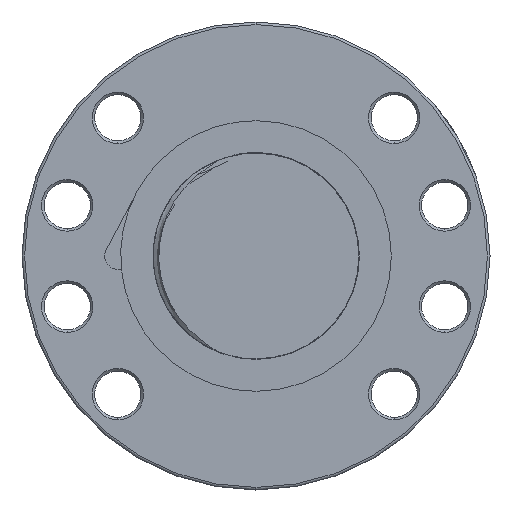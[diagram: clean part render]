
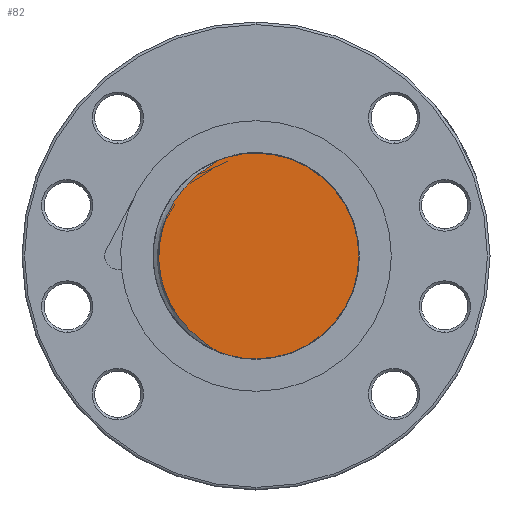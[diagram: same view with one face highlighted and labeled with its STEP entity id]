
A CAD part, left-side view. The second image highlights one B-rep face of the part: STEP entity #82.
In plain terms, the highlighted planar face has unit normal (-1, 0, 0).
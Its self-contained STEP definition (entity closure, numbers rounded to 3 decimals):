
#72 = EDGE_CURVE ( 'NONE', #46327, #46339, #1147, .T. ) ;
#73 = ORIENTED_EDGE ( 'NONE', *, *, #46351, .F. ) ;
#74 = ORIENTED_EDGE ( 'NONE', *, *, #46143, .F. ) ;
#82 = ADVANCED_FACE ( 'NONE', ( #1273 ), #1272, .F. ) ;
#83 = EDGE_LOOP ( 'NONE', ( #84, #85, #73, #74 ) ) ;
#84 = ORIENTED_EDGE ( 'NONE', *, *, #46326, .F. ) ;
#85 = ORIENTED_EDGE ( 'NONE', *, *, #72, .T. ) ;
#1131 = CARTESIAN_POINT ( 'NONE',  ( -152., 16.708, 9.19 ) ) ;
#1132 = CARTESIAN_POINT ( 'NONE',  ( -152., 16.254, 10.026 ) ) ;
#1133 = CARTESIAN_POINT ( 'NONE',  ( -152., 15.486, 11.235 ) ) ;
#1134 = CARTESIAN_POINT ( 'NONE',  ( -152., 15.215, 11.631 ) ) ;
#1135 = CARTESIAN_POINT ( 'NONE',  ( -152., 14.649, 12.4 ) ) ;
#1136 = CARTESIAN_POINT ( 'NONE',  ( -152., 14.354, 12.773 ) ) ;
#1137 = CARTESIAN_POINT ( 'NONE',  ( -152., 13.438, 13.856 ) ) ;
#1138 = CARTESIAN_POINT ( 'NONE',  ( -152., 12.783, 14.533 ) ) ;
#1139 = CARTESIAN_POINT ( 'NONE',  ( -152., 11.395, 15.802 ) ) ;
#1140 = CARTESIAN_POINT ( 'NONE',  ( -152., 10.66, 16.394 ) ) ;
#1141 = CARTESIAN_POINT ( 'NONE',  ( -152., 9.507, 17.229 ) ) ;
#1142 = CARTESIAN_POINT ( 'NONE',  ( -152., 9.113, 17.498 ) ) ;
#1143 = CARTESIAN_POINT ( 'NONE',  ( -152., 8.316, 18.023 ) ) ;
#1144 = CARTESIAN_POINT ( 'NONE',  ( -152., 7.911, 18.277 ) ) ;
#1145 = CARTESIAN_POINT ( 'NONE',  ( -152., 7.511, 18.536 ) ) ;
#1147 = B_SPLINE_CURVE_WITH_KNOTS ( 'NONE', 3,
 ( #1145, #1144, #1143, #1142, #1141, #1140, #1139, #1138, #1137, #1136, #1135, #1134, #1133, #1132, #1131, #1377, #1376, #1375, #1374, #1373, #1372, #1371, #1370, #1369, #1368, #1367, #1366, #1365, #1364, #1363, #1362, #1361, #1360, #1359, #1358, #1357, #1356, #1355, #1354, #1353, #1352, #1351, #1350, #1349 ),
 .UNSPECIFIED., .F., .F.,
 ( 4, 2, 2, 2, 2, 2, 2, 2, 2, 2, 2, 2, 2, 2, 2, 2, 2, 2, 2, 2, 2, 4 ),
 ( 0.02, 0.021, 0.023, 0.025, 0.028, 0.03, 0.031, 0.034, 0.036, 0.039, 0.041, 0.042, 0.048, 0.049, 0.05, 0.053, 0.055, 0.056, 0.059, 0.061, 0.063, 0.064 ),
 .UNSPECIFIED. ) ;
#1268 = DIRECTION ( 'NONE',  ( 0., 0., -1. ) ) ;
#1269 = DIRECTION ( 'NONE',  ( 1., 0., 0. ) ) ;
#1270 = CARTESIAN_POINT ( 'NONE',  ( -152., 0., 0. ) ) ;
#1271 = AXIS2_PLACEMENT_3D ( 'NONE', #1270, #1269, #1268 ) ;
#1272 = PLANE ( 'NONE',  #1271 ) ;
#1273 = FACE_OUTER_BOUND ( 'NONE', #83, .T. ) ;
#1349 = CARTESIAN_POINT ( 'NONE',  ( -152., 7.513, -18.535 ) ) ;
#1350 = CARTESIAN_POINT ( 'NONE',  ( -152., 7.915, -18.275 ) ) ;
#1351 = CARTESIAN_POINT ( 'NONE',  ( -152., 8.32, -18.02 ) ) ;
#1352 = CARTESIAN_POINT ( 'NONE',  ( -152., 9.118, -17.494 ) ) ;
#1353 = CARTESIAN_POINT ( 'NONE',  ( -152., 9.514, -17.223 ) ) ;
#1354 = CARTESIAN_POINT ( 'NONE',  ( -152., 10.675, -16.382 ) ) ;
#1355 = CARTESIAN_POINT ( 'NONE',  ( -152., 11.415, -15.785 ) ) ;
#1356 = CARTESIAN_POINT ( 'NONE',  ( -152., 12.813, -14.505 ) ) ;
#1357 = CARTESIAN_POINT ( 'NONE',  ( -152., 13.47, -13.821 ) ) ;
#1358 = CARTESIAN_POINT ( 'NONE',  ( -152., 14.391, -12.727 ) ) ;
#1359 = CARTESIAN_POINT ( 'NONE',  ( -152., 14.688, -12.349 ) ) ;
#1360 = CARTESIAN_POINT ( 'NONE',  ( -152., 15.252, -11.577 ) ) ;
#1361 = CARTESIAN_POINT ( 'NONE',  ( -152., 15.52, -11.184 ) ) ;
#1362 = CARTESIAN_POINT ( 'NONE',  ( -152., 16.28, -9.981 ) ) ;
#1363 = CARTESIAN_POINT ( 'NONE',  ( -152., 16.73, -9.148 ) ) ;
#1364 = CARTESIAN_POINT ( 'NONE',  ( -152., 17.316, -7.851 ) ) ;
#1365 = CARTESIAN_POINT ( 'NONE',  ( -152., 17.497, -7.411 ) ) ;
#1366 = CARTESIAN_POINT ( 'NONE',  ( -152., 17.828, -6.515 ) ) ;
#1367 = CARTESIAN_POINT ( 'NONE',  ( -152., 17.979, -6.058 ) ) ;
#1368 = CARTESIAN_POINT ( 'NONE',  ( -152., 18.646, -3.77 ) ) ;
#1369 = CARTESIAN_POINT ( 'NONE',  ( -152., 18.914, -1.897 ) ) ;
#1370 = CARTESIAN_POINT ( 'NONE',  ( -152., 18.912, 0.499 ) ) ;
#1371 = CARTESIAN_POINT ( 'NONE',  ( -152., 18.894, 0.977 ) ) ;
#1372 = CARTESIAN_POINT ( 'NONE',  ( -152., 18.825, 1.926 ) ) ;
#1373 = CARTESIAN_POINT ( 'NONE',  ( -152., 18.774, 2.397 ) ) ;
#1374 = CARTESIAN_POINT ( 'NONE',  ( -152., 18.57, 3.803 ) ) ;
#1375 = CARTESIAN_POINT ( 'NONE',  ( -152., 18.368, 4.727 ) ) ;
#1376 = CARTESIAN_POINT ( 'NONE',  ( -152., 17.833, 6.553 ) ) ;
#1377 = CARTESIAN_POINT ( 'NONE',  ( -152., 17.497, 7.457 ) ) ;
#11883 = CARTESIAN_POINT ( 'NONE',  ( -152., 0., 20. ) ) ;
#11884 = DIRECTION ( 'NONE',  ( 0., 1., 0. ) ) ;
#11885 = DIRECTION ( 'NONE',  ( 1., 0., 0. ) ) ;
#11886 = CARTESIAN_POINT ( 'NONE',  ( -152., 0., 0. ) ) ;
#11887 = AXIS2_PLACEMENT_3D ( 'NONE', #11886, #11885, #11884 ) ;
#11888 = CIRCLE ( 'NONE', #11887, 20. ) ;
#11889 = CARTESIAN_POINT ( 'NONE',  ( -152., 7.511, 18.536 ) ) ;
#11916 = CARTESIAN_POINT ( 'NONE',  ( -152., 7.513, -18.535 ) ) ;
#12031 = DIRECTION ( 'NONE',  ( 0., 1., 0. ) ) ;
#12032 = DIRECTION ( 'NONE',  ( 1., 0., 0. ) ) ;
#12033 = CARTESIAN_POINT ( 'NONE',  ( -152., 0., 0. ) ) ;
#12034 = AXIS2_PLACEMENT_3D ( 'NONE', #12033, #12032, #12031 ) ;
#12035 = CIRCLE ( 'NONE', #12034, 20. ) ;
#12036 = CARTESIAN_POINT ( 'NONE',  ( -152., 0., -20. ) ) ;
#18175 = DIRECTION ( 'NONE',  ( 0., 1., 0. ) ) ;
#18177 = DIRECTION ( 'NONE',  ( 1., 0., 0. ) ) ;
#18179 = CARTESIAN_POINT ( 'NONE',  ( -152., 0., 0. ) ) ;
#18181 = AXIS2_PLACEMENT_3D ( 'NONE', #18179, #18177, #18175 ) ;
#18182 = CIRCLE ( 'NONE', #18181, 20. ) ;
#46143 = EDGE_CURVE ( 'NONE', #46328, #46348, #18182, .T. ) ;
#46326 = EDGE_CURVE ( 'NONE', #46327, #46328, #11888, .T. ) ;
#46327 = VERTEX_POINT ( 'NONE', #11889 ) ;
#46328 = VERTEX_POINT ( 'NONE', #11883 ) ;
#46339 = VERTEX_POINT ( 'NONE', #11916 ) ;
#46348 = VERTEX_POINT ( 'NONE', #12036 ) ;
#46351 = EDGE_CURVE ( 'NONE', #46348, #46339, #12035, .T. ) ;
